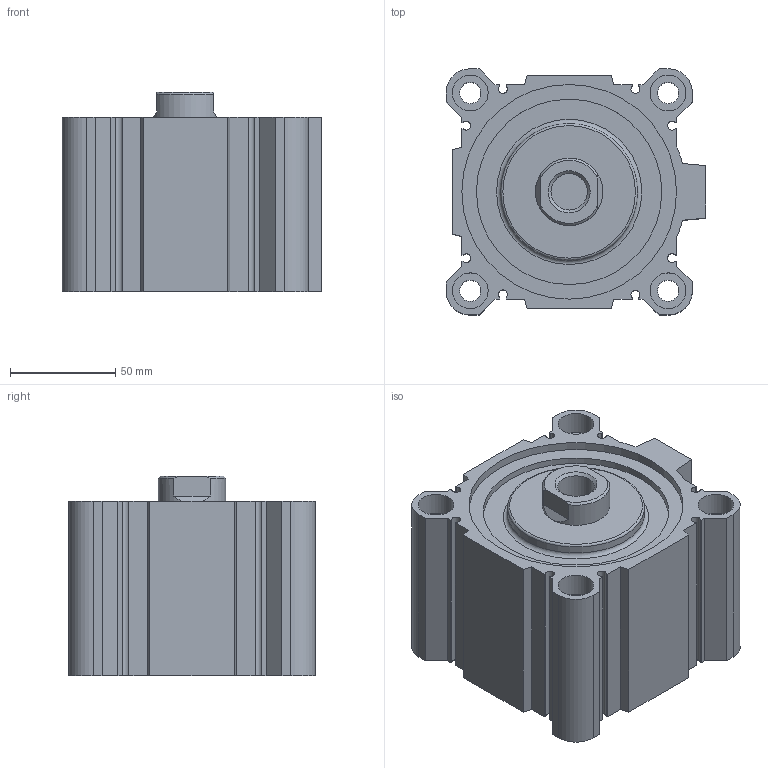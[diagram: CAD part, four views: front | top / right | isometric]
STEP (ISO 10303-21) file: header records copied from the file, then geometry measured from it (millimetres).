
FILE_DESCRIPTION( ( 'STEP AP214' ), '1' );
FILE_NAME( 'C:/Users/emc02044/Desktop/SQN SQN big size/SQN100X20-S.stp', '2026-07-29T04:00:30', ( 'License CC BY-ND 4.0' ), ( 'CADENAS' ), ' ', 'PARTsolutions', ' ' );
FILE_SCHEMA( ( 'AUTOMOTIVE_DESIGN { 1 0 10303 214 1 1 1 1 }' ) );
Length unit declared in the file: millimetre
Products named in the file (3): SQN100X20-S; _SQ100X20-S(0) ()_body; _SQ100X20-S(rod-0)
Assembly tree (2 placements, depth 2):
  SQN100X20-S
    _SQ100X20-S(0) ()_body
    _SQ100X20-S(rod-0)
Bounding box: 123.5 x 117 x 95 mm (x, y, z)
Volume: 750242.8 mm3; surface area: 153656.5 mm2
Topology: 2 solids, 2 shells, 153 faces, 356 edges, 235 vertices
Faces by surface type: plane 96, cylinder 47, cone 7, torus 3
Full cylindrical faces by diameter (mm): 10.106 x8, 10.9 x4, 14.95 x2, 17 x8, 17.294 x1, 32 x2, 65 x2, 88.1 x2, 100 x2, 102 x2
Entity records: 5436 total; most frequent: DIRECTION 728, CARTESIAN_POINT 714, ORIENTED_EDGE 626, EDGE_CURVE 313, AXIS2_PLACEMENT_3D 263, VERTEX_POINT 233, EDGE_LOOP 230, LINE 202
